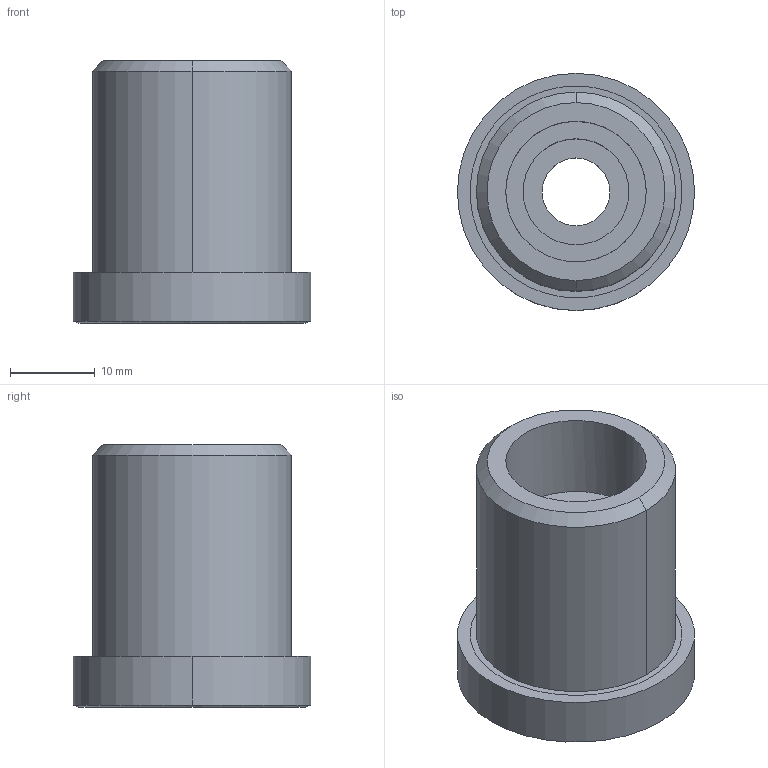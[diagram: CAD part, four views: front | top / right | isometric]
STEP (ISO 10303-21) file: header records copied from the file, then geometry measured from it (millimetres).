
FILE_DESCRIPTION (( 'STEP AP203' ), '1' );
FILE_NAME ('015.300.STEP', '2022-02-02T08:00:18', ( '' ), ( '' ), 'SwSTEP 2.0', 'SolidWorks 2018', '' );
FILE_SCHEMA (( 'CONFIG_CONTROL_DESIGN' ));
Length unit declared in the file: millimetre
Products named in the file (1): 015.300
Bounding box: 28 x 28 x 31 mm (x, y, z)
Volume: 10267.5 mm3; surface area: 5748.5 mm2
Topology: 2 solids, 2 shells, 36 faces, 86 edges, 58 vertices
Faces by surface type: cylinder 16, cone 8, plane 8, bspline 4
Entity records: 1654 total; most frequent: CARTESIAN_POINT 707, DIRECTION 198, ORIENTED_EDGE 172, AXIS2_PLACEMENT_3D 87, EDGE_CURVE 86, VERTEX_POINT 58, CIRCLE 54, EDGE_LOOP 44
